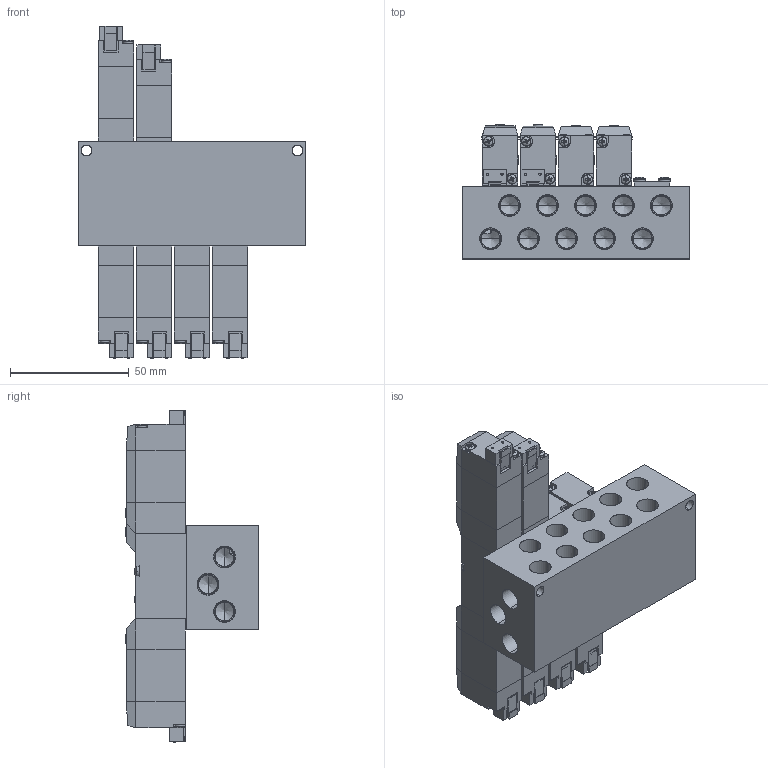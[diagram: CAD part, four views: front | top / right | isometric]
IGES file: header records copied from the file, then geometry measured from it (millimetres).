
Start section: SolidWorks IGES file using analytic representation for surfaces
Global section: file name: D:\Custom\3D繪製\PC\PC5\MFS#-PC5-01-SP.IGS,1; native system: 5HSolidWorks 2014; preprocessor: SolidWorks 2014; author: Chieh_Lu; date: 150729.231304; units: millimetre
Bounding box: 96 x 56.5 x 140 mm (x, y, z)
Surface area: 85740 mm2 (no closed solid volume)
Topology: 0 solids, 0 shells, 2404 faces, 20811 edges, 20703 vertices
Faces by surface type: bspline 1594, revolution 810
